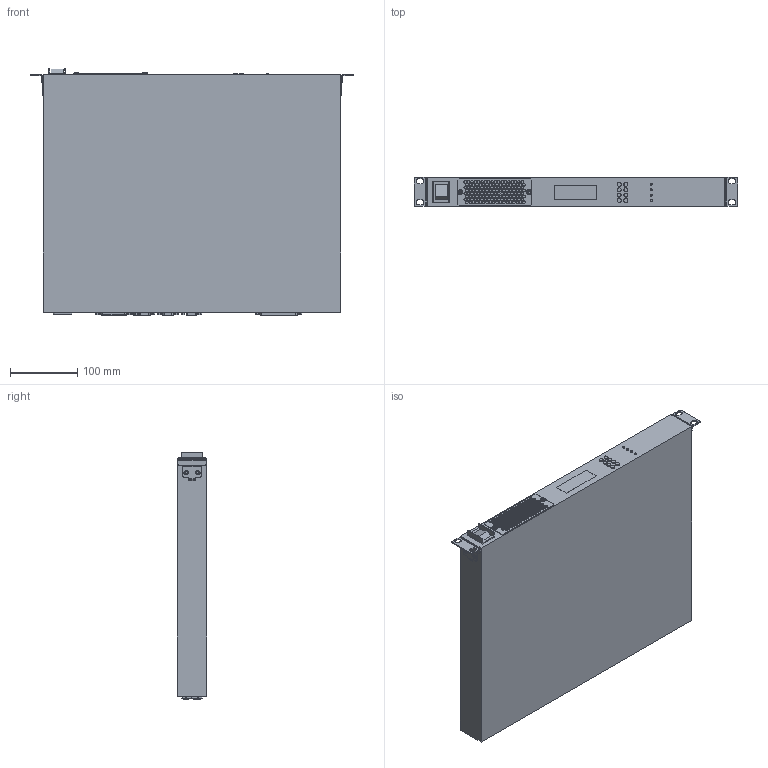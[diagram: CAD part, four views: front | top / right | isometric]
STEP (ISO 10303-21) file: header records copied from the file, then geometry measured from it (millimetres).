
FILE_DESCRIPTION(/* description */ (''),/* implementation_level */ '2;1');
FILE_NAME(/* name */ 'M:\Trevista_Technisch\Dokumentation\_EXTERN_fuer_Kunden\CAD\trevista X.4\Controller.stp',/* time_stamp */ '2016-04-12T13:03:42+02:00',/* author */ ('ml'),/* organization */ (''),/* preprocessor_version */ 'ST-DEVELOPER v15.2',/* originating_system */ 'Autodesk Inventor 2014',/* authorisation */ '');
FILE_SCHEMA (('CONFIG_CONTROL_DESIGN'));
Products named in the file (1): _trevista Controller_step
Bounding box: 482.6 x 43.65 x 368.1 mm (x, y, z)
Volume: 6873930 mm3; surface area: 405087.6 mm2
Topology: 6 solids, 16 shells, 2837 faces, 6370 edges, 4087 vertices
Faces by surface type: plane 1834, cylinder 648, cone 249, bspline 58, torus 31, sphere 17
Full cylindrical faces by diameter (mm): 1 x112, 1.2 x37, 2.013 x6, 2.2 x10, 3.121 x2, 3.404 x4, 4 x146, 4.3 x2, 6 x8, 6.4 x4, 7.7 x2
Entity records: 85983 total; most frequent: CARTESIAN_POINT 22645, DIRECTION 12628, ORIENTED_EDGE 11398, EDGE_CURVE 5675, AXIS2_PLACEMENT_3D 4336, LINE 3956, VECTOR 3956, VERTEX_POINT 3933
